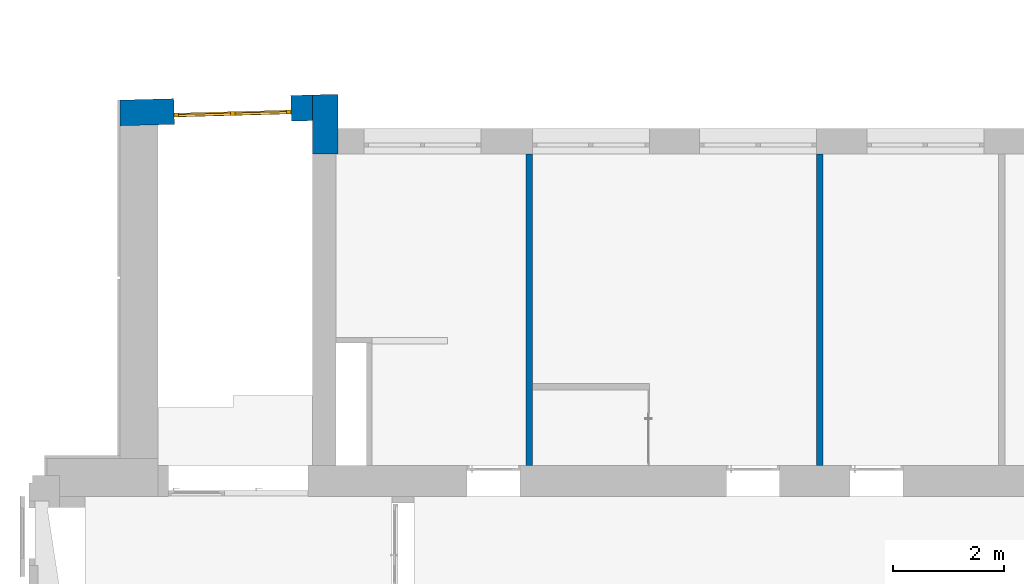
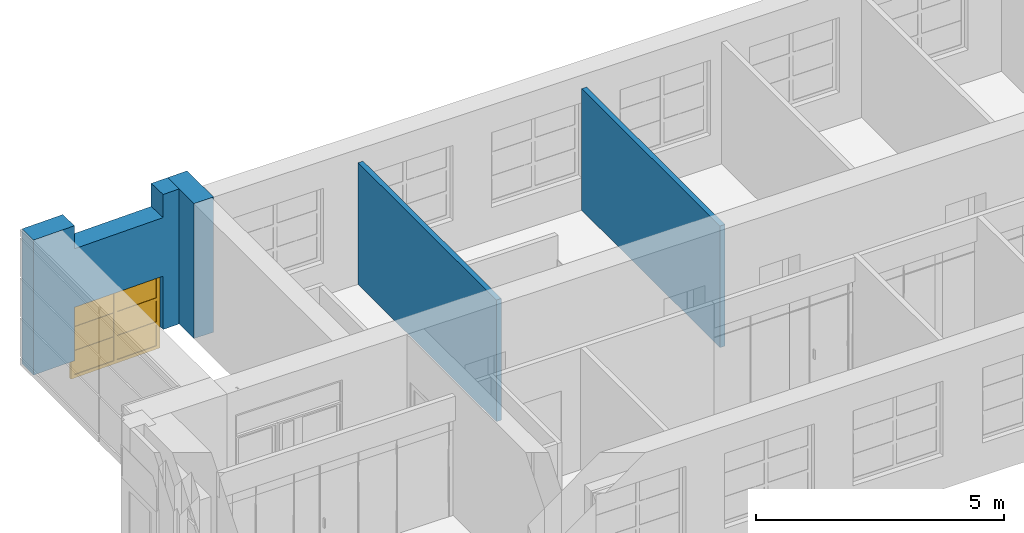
# One storey, part 52 of 73: 4 walls, 1 window, 3 openings.
"""IFC2X3 building model written with IfcOpenShell, lengths in millimetres."""

from ifc_helpers import new_model, entity, si_unit, converted_unit, derived_unit, direction, frame, frame_2d, origin, place, context, subcontext, project, spatial, polyline, rectangle, outline, extrude, face_set, surface_model, source, transform, mapped, material, material_list, layer, layer_set, layer_usage, type_object, type_shapes, element, fill, save


model = new_model("IFC2X3")

# Units and contexts
model_context = context("Model", 3, precision=0.01, world=origin(), true_north=direction((6.12303176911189e-17, 1.0)))
body_context = subcontext(model_context, "Body", "Model", "MODEL_VIEW")
ifc_project = project(units=[si_unit("LENGTHUNIT", "METRE", prefix="MILLI"), si_unit("AREAUNIT", "SQUARE_METRE"), si_unit("VOLUMEUNIT", "CUBIC_METRE"), converted_unit("PLANEANGLEUNIT", "DEGREE", entity("IfcRatioMeasure", 0.0174532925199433), si_unit("PLANEANGLEUNIT", "RADIAN"), dimensions=[0, 0, 0, 0, 0, 0, 0]), si_unit("MASSUNIT", "GRAM", prefix="KILO"), derived_unit("MASSDENSITYUNIT", [(si_unit("MASSUNIT", "GRAM", prefix="KILO"), 1), (si_unit("LENGTHUNIT", "METRE"), -3)]), si_unit("TIMEUNIT", "SECOND"), si_unit("FREQUENCYUNIT", "HERTZ"), si_unit("THERMODYNAMICTEMPERATUREUNIT", "DEGREE_CELSIUS"), derived_unit("THERMALTRANSMITTANCEUNIT", [(si_unit("MASSUNIT", "GRAM", prefix="KILO"), 1), (si_unit("THERMODYNAMICTEMPERATUREUNIT", "KELVIN"), -1), (si_unit("TIMEUNIT", "SECOND"), -3)]), derived_unit("VOLUMETRICFLOWRATEUNIT", [(si_unit("LENGTHUNIT", "METRE"), 3), (si_unit("TIMEUNIT", "SECOND"), -1)]), si_unit("ELECTRICCURRENTUNIT", "AMPERE"), si_unit("ELECTRICVOLTAGEUNIT", "VOLT"), si_unit("POWERUNIT", "WATT"), si_unit("FORCEUNIT", "NEWTON", prefix="KILO"), si_unit("ILLUMINANCEUNIT", "LUX"), si_unit("LUMINOUSFLUXUNIT", "LUMEN"), si_unit("LUMINOUSINTENSITYUNIT", "CANDELA"), derived_unit("USERDEFINED", [(si_unit("MASSUNIT", "GRAM", prefix="KILO"), -1), (si_unit("LENGTHUNIT", "METRE"), -2), (si_unit("TIMEUNIT", "SECOND"), 3), (si_unit("LUMINOUSFLUXUNIT", "LUMEN"), 1)]), derived_unit("LINEARVELOCITYUNIT", [(si_unit("LENGTHUNIT", "METRE"), 1), (si_unit("TIMEUNIT", "SECOND"), -1)]), si_unit("PRESSUREUNIT", "PASCAL"), derived_unit("USERDEFINED", [(si_unit("LENGTHUNIT", "METRE"), -2), (si_unit("MASSUNIT", "GRAM", prefix="KILO"), 1), (si_unit("TIMEUNIT", "SECOND"), -2)])], contexts=[model_context])

# Site, building, storey
site_placement = place(None, frame((-151.875543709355, 2715.0, 0.0)))
site = spatial("IfcSite", under=ifc_project, at=site_placement, Name="Surface", CompositionType="ELEMENT")
building_placement = place(site_placement, origin())
building = spatial("IfcBuilding", under=site, at=building_placement, CompositionType="ELEMENT")
storey_placement = place(building_placement, frame((0.0, 0.0, 6730.43000000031)))
storey = spatial("IfcBuildingStorey", under=building, at=storey_placement, Name="3 korrus", CompositionType="ELEMENT", Elevation=6730.43000000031)

# Wall, openings, window
ifc_material_1 = material(Name="Brick, Common")
ifc_layer_1 = layer(ifc_material_1, 440.0)
ifc_material_2 = material(Name="__Kips GN13_tava")
ifc_layer_2 = layer(ifc_material_2, 20.0)
ifc_layer_set_1 = layer_set([ifc_layer_1, ifc_layer_2], Name="Basic Wall:VS-1")
ifc_layer_usage_1 = layer_usage(ifc_layer_set_1, "AXIS2", "NEGATIVE", 230.0)
wall_type_1 = type_object("IfcWallType", Name="Basic Wall:VS-1", PredefinedType="STANDARD", material=ifc_layer_set_1)
wall_1_placement = place(storey_placement, frame((1084.82025900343, 12886.4674488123, 0.00203353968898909), z_axis=(0.0, 0.0, 1.0), x_axis=(0.999638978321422, 0.0268684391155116, 0.0)))
wall_1 = element("IfcWallStandardCase", 1, at=wall_1_placement, inside=storey, type_object=wall_type_1, material=ifc_layer_usage_1, Name="SEIN - 004", ObjectType="Basic Wall:VS-1", context=body_context, shape_type="SweptSolid", body=[
    extrude(outline(polyline([(0.0, -230.0), (3450.32003918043, -230.0), (3462.68398482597, 230.0), (12.363945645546, 230.0), (0.0, -230.0)])), origin(), (0.0, 0.0, 1.0), 3329.56796646),
])
opening_1_placement = place(wall_1_placement, origin())
element("IfcOpeningElement", 2, at=opening_1_placement, cuts=wall_1, Name="SEIN - 004", ObjectType="Opening", context=body_context, shape_type="SweptSolid", body=[
    extrude(rectangle(XDim=1768.95437241, YDim=2100.0, at=frame_2d((5.11590769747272e-13, 0.0), x_axis=(1.0, 0.0))), frame((2022.05100957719, -490.0, 3645.057630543), z_axis=(0.0, 1.0, 0.0), x_axis=(0.0, 0.0, 1.0)), (0.0, 0.0, 1.0), 1180.0),
])
opening_2_placement = place(wall_1_placement, origin())
element("IfcOpeningElement", 3, at=opening_2_placement, cuts=wall_1, Name="SEIN - 004", ObjectType="Opening", context=body_context, shape_type="SweptSolid", body=[
    extrude(rectangle(XDim=1850.0, YDim=2100.0, at=frame_2d((0.0, 1.13686837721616e-13), x_axis=(1.0, 0.0))), frame((2022.05100957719, -695.9, 3685.580444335), z_axis=(0.0, 1.0, 0.0), x_axis=(0.0, 0.0, -1.0)), (0.0, 0.0, 1.0), 1393.8),
])
opening_3_placement = place(wall_1_placement, frame((-1430.66788143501, -12852.6677276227, -0.00203353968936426), z_axis=(0.0, 0.0, 1.0), x_axis=(0.999638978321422, -0.0268684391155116, 0.0)))
opening_3 = element("IfcOpeningElement", 4, at=opening_3_placement, cuts=wall_1, Name="SEIN - 004", ObjectType="Opening", context=body_context, shape_type="SweptSolid", body=[
    extrude(rectangle(XDim=1850.0, YDim=2100.0, at=frame_2d((5.6843418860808e-13, -3.41060513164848e-13), x_axis=(1.0, 0.0))), frame((3124.83901111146, 12245.1480382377, 392.606098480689), z_axis=(-0.0268684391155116, 0.999638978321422, 0.0), x_axis=(0.0, 0.0, -1.0)), (0.0, 0.0, 1.0), 1393.8),
])
ifc_material_3 = material(Name="Paint - Titanium White")
ifc_material_4 = material(Name="Paint - Dark Gray")
ifc_material_5 = material(Name="Glass - Clear Fast")
ifc_material_list_1 = material_list([ifc_material_3, ifc_material_4, ifc_material_5])
ifc_material_list_2 = material_list([ifc_material_3, ifc_material_4, ifc_material_5])
window_style = type_object("IfcWindowStyle", Name="Aken_1850x2100", ConstructionType="NOTDEFINED", OperationType="DOUBLE_PANEL_VERTICAL", ParameterTakesPrecedence=False, Sizeable=False, material=ifc_material_list_2)
shared_shape = source(origin(), body_context, "Body", "SurfaceModel", [
    surface_model("IfcFaceBasedSurfaceModel", [(80.0, 727.9, 1770.0), (80.0, 772.9, 1770.0), (0.0, 772.9, 1770.0), (0.0, 727.9, 1770.0), (80.0, 727.9, 80.0), (80.0, 772.9, 80.0), (80.0, 772.9, 1770.0), (80.0, 727.9, 1770.0), (80.0, 772.9, 1770.0), (80.0, 772.9, 80.0), (0.0, 772.9, 80.0), (0.0, 772.9, 1770.0), (0.0, 727.9, 1770.0), (0.0, 772.9, 1770.0), (0.0, 772.9, 80.0), (0.0, 727.9, 80.0), (80.0, 727.9, 1770.0), (0.0, 727.9, 1770.0), (0.0, 727.9, 80.0), (80.0, 727.9, 80.0), (0.0, 727.9, 80.0), (0.0, 772.9, 80.0), (80.0, 772.9, 80.0), (80.0, 727.9, 80.0), (2020.0, 727.9, 80.0), (2020.0, 772.9, 80.0), (2100.0, 772.9, 80.0), (2100.0, 727.9, 80.0), (2020.0, 727.9, 1770.0), (2020.0, 772.9, 1770.0), (2020.0, 772.9, 80.0), (2020.0, 727.9, 80.0), (2020.0, 772.9, 80.0), (2020.0, 772.9, 1770.0), (2100.0, 772.9, 1770.0), (2100.0, 772.9, 80.0), (2100.0, 727.9, 80.0), (2100.0, 772.9, 80.0), (2100.0, 772.9, 1770.0), (2100.0, 727.9, 1770.0), (2020.0, 727.9, 80.0), (2100.0, 727.9, 80.0), (2100.0, 727.9, 1770.0), (2020.0, 727.9, 1770.0), (2100.0, 727.9, 1770.0), (2100.0, 772.9, 1770.0), (2020.0, 772.9, 1770.0), (2020.0, 727.9, 1770.0), (1010.0, 727.9, 80.0), (1010.0, 772.9, 80.0), (1090.0, 772.9, 80.0), (1090.0, 727.9, 80.0), (1010.0, 727.9, 1770.0), (1010.0, 772.9, 1770.0), (1010.0, 772.9, 80.0), (1010.0, 727.9, 80.0), (1010.0, 772.9, 80.0), (1010.0, 772.9, 1770.0), (1090.0, 772.9, 1770.0), (1090.0, 772.9, 80.0), (1090.0, 727.9, 80.0), (1090.0, 772.9, 80.0), (1090.0, 772.9, 1770.0), (1090.0, 727.9, 1770.0), (1010.0, 727.9, 80.0), (1090.0, 727.9, 80.0), (1090.0, 727.9, 1770.0), (1010.0, 727.9, 1770.0), (1090.0, 727.9, 1770.0), (1090.0, 772.9, 1770.0), (1010.0, 772.9, 1770.0), (1010.0, 727.9, 1770.0), (80.0, 727.9, 80.0), (80.0, 772.9, 80.0), (0.0, 772.9, 80.0), (0.0, 727.9, 80.0), (1010.0, 727.9, 80.0), (1010.0, 772.9, 80.0), (80.0, 772.9, 80.0), (80.0, 727.9, 80.0), (80.0, 772.9, 80.0), (1010.0, 772.9, 80.0), (1090.0, 772.9, 80.0), (2020.0, 772.9, 80.0), (2100.0, 772.9, 80.0), (2100.0, 772.9, 0.0), (0.0, 772.9, 0.0), (0.0, 772.9, 80.0), (0.0, 727.9, 80.0), (0.0, 772.9, 80.0), (0.0, 772.9, 0.0), (0.0, 727.9, 0.0), (80.0, 727.9, 80.0), (0.0, 727.9, 80.0), (0.0, 727.9, 0.0), (2100.0, 727.9, 0.0), (2100.0, 727.9, 80.0), (2020.0, 727.9, 80.0), (1090.0, 727.9, 80.0), (1010.0, 727.9, 80.0), (1090.0, 727.9, 80.0), (1090.0, 772.9, 80.0), (1010.0, 772.9, 80.0), (1010.0, 727.9, 80.0), (2020.0, 727.9, 80.0), (2020.0, 772.9, 80.0), (1090.0, 772.9, 80.0), (1090.0, 727.9, 80.0), (2100.0, 727.9, 80.0), (2100.0, 772.9, 80.0), (2020.0, 772.9, 80.0), (2020.0, 727.9, 80.0), (2100.0, 727.9, 0.0), (2100.0, 772.9, 0.0), (2100.0, 772.9, 80.0), (2100.0, 727.9, 80.0), (0.0, 727.9, 0.0), (0.0, 772.9, 0.0), (2100.0, 772.9, 0.0), (2100.0, 727.9, 0.0), (1010.0, 727.9, 1770.0), (1010.0, 772.9, 1770.0), (1090.0, 772.9, 1770.0), (1090.0, 727.9, 1770.0), (80.0, 727.9, 1770.0), (80.0, 772.9, 1770.0), (1010.0, 772.9, 1770.0), (1010.0, 727.9, 1770.0), (1010.0, 772.9, 1770.0), (80.0, 772.9, 1770.0), (0.0, 772.9, 1770.0), (0.0, 772.9, 1850.0), (2100.0, 772.9, 1850.0), (2100.0, 772.9, 1770.0), (2020.0, 772.9, 1770.0), (1090.0, 772.9, 1770.0), (1090.0, 727.9, 1770.0), (1090.0, 772.9, 1770.0), (2020.0, 772.9, 1770.0), (2020.0, 727.9, 1770.0), (1010.0, 727.9, 1770.0), (1090.0, 727.9, 1770.0), (2020.0, 727.9, 1770.0), (2100.0, 727.9, 1770.0), (2100.0, 727.9, 1850.0), (0.0, 727.9, 1850.0), (0.0, 727.9, 1770.0), (80.0, 727.9, 1770.0), (0.0, 727.9, 1770.0), (0.0, 772.9, 1770.0), (80.0, 772.9, 1770.0), (80.0, 727.9, 1770.0), (0.0, 727.9, 1850.0), (0.0, 772.9, 1850.0), (0.0, 772.9, 1770.0), (0.0, 727.9, 1770.0), (2100.0, 727.9, 1850.0), (2100.0, 772.9, 1850.0), (0.0, 772.9, 1850.0), (0.0, 727.9, 1850.0), (2100.0, 727.9, 1770.0), (2100.0, 772.9, 1770.0), (2100.0, 772.9, 1850.0), (2100.0, 727.9, 1850.0), (2020.0, 727.9, 1770.0), (2020.0, 772.9, 1770.0), (2100.0, 772.9, 1770.0), (2100.0, 727.9, 1770.0), (80.0, 752.9, 590.0), (80.0, 762.9, 590.0), (1010.0, 762.9, 590.0), (1010.0, 752.9, 590.0), (80.0, 752.9, 670.0), (80.0, 762.9, 670.0), (80.0, 762.9, 590.0), (80.0, 752.9, 590.0), (80.0, 762.9, 590.0), (80.0, 762.9, 670.0), (1010.0, 762.9, 670.0), (1010.0, 762.9, 590.0), (1010.0, 752.9, 590.0), (1010.0, 762.9, 590.0), (1010.0, 762.9, 670.0), (1010.0, 752.9, 670.0), (80.0, 752.9, 590.0), (1010.0, 752.9, 590.0), (1010.0, 752.9, 670.0), (80.0, 752.9, 670.0), (1010.0, 752.9, 670.0), (1010.0, 762.9, 670.0), (80.0, 762.9, 670.0), (80.0, 752.9, 670.0), (80.0, 752.9, 1180.0), (80.0, 762.9, 1180.0), (1010.0, 762.9, 1180.0), (1010.0, 752.9, 1180.0), (80.0, 752.9, 1260.0), (80.0, 762.9, 1260.0), (80.0, 762.9, 1180.0), (80.0, 752.9, 1180.0), (80.0, 762.9, 1180.0), (80.0, 762.9, 1260.0), (1010.0, 762.9, 1260.0), (1010.0, 762.9, 1180.0), (1010.0, 752.9, 1180.0), (1010.0, 762.9, 1180.0), (1010.0, 762.9, 1260.0), (1010.0, 752.9, 1260.0), (80.0, 752.9, 1180.0), (1010.0, 752.9, 1180.0), (1010.0, 752.9, 1260.0), (80.0, 752.9, 1260.0), (1010.0, 752.9, 1260.0), (1010.0, 762.9, 1260.0), (80.0, 762.9, 1260.0), (80.0, 752.9, 1260.0), (1090.0, 752.9, 590.0), (1090.0, 762.9, 590.0), (2020.0, 762.9, 590.0), (2020.0, 752.9, 590.0), (1090.0, 752.9, 670.0), (1090.0, 762.9, 670.0), (1090.0, 762.9, 590.0), (1090.0, 752.9, 590.0), (1090.0, 762.9, 590.0), (1090.0, 762.9, 670.0), (2020.0, 762.9, 670.0), (2020.0, 762.9, 590.0), (2020.0, 752.9, 590.0), (2020.0, 762.9, 590.0), (2020.0, 762.9, 670.0), (2020.0, 752.9, 670.0), (1090.0, 752.9, 590.0), (2020.0, 752.9, 590.0), (2020.0, 752.9, 670.0), (1090.0, 752.9, 670.0), (2020.0, 752.9, 670.0), (2020.0, 762.9, 670.0), (1090.0, 762.9, 670.0), (1090.0, 752.9, 670.0), (1090.0, 752.9, 1180.0), (1090.0, 762.9, 1180.0), (2020.0, 762.9, 1180.0), (2020.0, 752.9, 1180.0), (1090.0, 752.9, 1260.0), (1090.0, 762.9, 1260.0), (1090.0, 762.9, 1180.0), (1090.0, 752.9, 1180.0), (1090.0, 762.9, 1180.0), (1090.0, 762.9, 1260.0), (2020.0, 762.9, 1260.0), (2020.0, 762.9, 1180.0), (2020.0, 752.9, 1180.0), (2020.0, 762.9, 1180.0), (2020.0, 762.9, 1260.0), (2020.0, 752.9, 1260.0), (1090.0, 752.9, 1180.0), (2020.0, 752.9, 1180.0), (2020.0, 752.9, 1260.0), (1090.0, 752.9, 1260.0), (2020.0, 752.9, 1260.0), (2020.0, 762.9, 1260.0), (1090.0, 762.9, 1260.0), (1090.0, 752.9, 1260.0)], [face_set([[[0, 1, 2, 3]]]), face_set([[[4, 5, 6, 7]]]), face_set([[[8, 9, 10, 11]]]), face_set([[[12, 13, 14, 15]]]), face_set([[[16, 17, 18, 19]]]), face_set([[[20, 21, 22, 23]]]), face_set([[[24, 25, 26, 27]]]), face_set([[[28, 29, 30, 31]]]), face_set([[[32, 33, 34, 35]]]), face_set([[[36, 37, 38, 39]]]), face_set([[[40, 41, 42, 43]]]), face_set([[[44, 45, 46, 47]]]), face_set([[[48, 49, 50, 51]]]), face_set([[[52, 53, 54, 55]]]), face_set([[[56, 57, 58, 59]]]), face_set([[[60, 61, 62, 63]]]), face_set([[[64, 65, 66, 67]]]), face_set([[[68, 69, 70, 71]]]), face_set([[[72, 73, 74, 75]]]), face_set([[[76, 77, 78, 79]]]), face_set([[[80, 81, 82, 83, 84, 85, 86, 87]]]), face_set([[[88, 89, 90, 91]]]), face_set([[[92, 93, 94, 95, 96, 97, 98, 99]]]), face_set([[[100, 101, 102, 103]]]), face_set([[[104, 105, 106, 107]]]), face_set([[[108, 109, 110, 111]]]), face_set([[[112, 113, 114, 115]]]), face_set([[[116, 117, 118, 119]]]), face_set([[[120, 121, 122, 123]]]), face_set([[[124, 125, 126, 127]]]), face_set([[[128, 129, 130, 131, 132, 133, 134, 135]]]), face_set([[[136, 137, 138, 139]]]), face_set([[[140, 141, 142, 143, 144, 145, 146, 147]]]), face_set([[[148, 149, 150, 151]]]), face_set([[[152, 153, 154, 155]]]), face_set([[[156, 157, 158, 159]]]), face_set([[[160, 161, 162, 163]]]), face_set([[[164, 165, 166, 167]]]), face_set([[[168, 169, 170, 171]]]), face_set([[[172, 173, 174, 175]]]), face_set([[[176, 177, 178, 179]]]), face_set([[[180, 181, 182, 183]]]), face_set([[[184, 185, 186, 187]]]), face_set([[[188, 189, 190, 191]]]), face_set([[[192, 193, 194, 195]]]), face_set([[[196, 197, 198, 199]]]), face_set([[[200, 201, 202, 203]]]), face_set([[[204, 205, 206, 207]]]), face_set([[[208, 209, 210, 211]]]), face_set([[[212, 213, 214, 215]]]), face_set([[[216, 217, 218, 219]]]), face_set([[[220, 221, 222, 223]]]), face_set([[[224, 225, 226, 227]]]), face_set([[[228, 229, 230, 231]]]), face_set([[[232, 233, 234, 235]]]), face_set([[[236, 237, 238, 239]]]), face_set([[[240, 241, 242, 243]]]), face_set([[[244, 245, 246, 247]]]), face_set([[[248, 249, 250, 251]]]), face_set([[[252, 253, 254, 255]]]), face_set([[[256, 257, 258, 259]]]), face_set([[[260, 261, 262, 263]]])]),
    surface_model("IfcFaceBasedSurfaceModel", [(80.0, 772.9, 1770.0), (80.0, 797.9, 1770.0), (0.0, 797.9, 1770.0), (0.0, 772.9, 1770.0), (80.0, 772.9, 80.0), (80.0, 797.9, 80.0), (80.0, 797.9, 1770.0), (80.0, 772.9, 1770.0), (80.0, 797.9, 1770.0), (80.0, 797.9, 80.0), (0.0, 797.9, 80.0), (0.0, 797.9, 1770.0), (0.0, 772.9, 1770.0), (0.0, 797.9, 1770.0), (0.0, 797.9, 80.0), (0.0, 772.9, 80.0), (80.0, 772.9, 1770.0), (0.0, 772.9, 1770.0), (0.0, 772.9, 80.0), (80.0, 772.9, 80.0), (0.0, 772.9, 80.0), (0.0, 797.9, 80.0), (80.0, 797.9, 80.0), (80.0, 772.9, 80.0), (2020.0, 772.9, 80.0), (2020.0, 797.9, 80.0), (2100.0, 797.9, 80.0), (2100.0, 772.9, 80.0), (2020.0, 772.9, 1770.0), (2020.0, 797.9, 1770.0), (2020.0, 797.9, 80.0), (2020.0, 772.9, 80.0), (2020.0, 797.9, 80.0), (2020.0, 797.9, 1770.0), (2100.0, 797.9, 1770.0), (2100.0, 797.9, 80.0), (2100.0, 772.9, 80.0), (2100.0, 797.9, 80.0), (2100.0, 797.9, 1770.0), (2100.0, 772.9, 1770.0), (2020.0, 772.9, 80.0), (2100.0, 772.9, 80.0), (2100.0, 772.9, 1770.0), (2020.0, 772.9, 1770.0), (2100.0, 772.9, 1770.0), (2100.0, 797.9, 1770.0), (2020.0, 797.9, 1770.0), (2020.0, 772.9, 1770.0), (1010.0, 772.9, 80.0), (1010.0, 797.9, 80.0), (1090.0, 797.9, 80.0), (1090.0, 772.9, 80.0), (1010.0, 772.9, 1770.0), (1010.0, 797.9, 1770.0), (1010.0, 797.9, 80.0), (1010.0, 772.9, 80.0), (1010.0, 797.9, 80.0), (1010.0, 797.9, 1770.0), (1090.0, 797.9, 1770.0), (1090.0, 797.9, 80.0), (1090.0, 772.9, 80.0), (1090.0, 797.9, 80.0), (1090.0, 797.9, 1770.0), (1090.0, 772.9, 1770.0), (1010.0, 772.9, 80.0), (1090.0, 772.9, 80.0), (1090.0, 772.9, 1770.0), (1010.0, 772.9, 1770.0), (1090.0, 772.9, 1770.0), (1090.0, 797.9, 1770.0), (1010.0, 797.9, 1770.0), (1010.0, 772.9, 1770.0), (80.0, 772.9, 80.0), (80.0, 797.9, 80.0), (0.0, 797.9, 80.0), (0.0, 772.9, 80.0), (1010.0, 772.9, 80.0), (1010.0, 797.9, 80.0), (80.0, 797.9, 80.0), (80.0, 772.9, 80.0), (80.0, 797.9, 80.0), (1010.0, 797.9, 80.0), (1090.0, 797.9, 80.0), (2020.0, 797.9, 80.0), (2100.0, 797.9, 80.0), (2100.0, 797.9, 0.0), (0.0, 797.9, 0.0), (0.0, 797.9, 80.0), (0.0, 772.9, 80.0), (0.0, 797.9, 80.0), (0.0, 797.9, 0.0), (0.0, 772.9, 0.0), (80.0, 772.9, 80.0), (0.0, 772.9, 80.0), (0.0, 772.9, 0.0), (2100.0, 772.9, 0.0), (2100.0, 772.9, 80.0), (2020.0, 772.9, 80.0), (1090.0, 772.9, 80.0), (1010.0, 772.9, 80.0), (1090.0, 772.9, 80.0), (1090.0, 797.9, 80.0), (1010.0, 797.9, 80.0), (1010.0, 772.9, 80.0), (2020.0, 772.9, 80.0), (2020.0, 797.9, 80.0), (1090.0, 797.9, 80.0), (1090.0, 772.9, 80.0), (2100.0, 772.9, 80.0), (2100.0, 797.9, 80.0), (2020.0, 797.9, 80.0), (2020.0, 772.9, 80.0), (2100.0, 772.9, 0.0), (2100.0, 797.9, 0.0), (2100.0, 797.9, 80.0), (2100.0, 772.9, 80.0), (0.0, 772.9, 0.0), (0.0, 797.9, 0.0), (2100.0, 797.9, 0.0), (2100.0, 772.9, 0.0), (1010.0, 772.9, 1770.0), (1010.0, 797.9, 1770.0), (1090.0, 797.9, 1770.0), (1090.0, 772.9, 1770.0), (80.0, 772.9, 1770.0), (80.0, 797.9, 1770.0), (1010.0, 797.9, 1770.0), (1010.0, 772.9, 1770.0), (1010.0, 797.9, 1770.0), (80.0, 797.9, 1770.0), (0.0, 797.9, 1770.0), (0.0, 797.9, 1850.0), (2100.0, 797.9, 1850.0), (2100.0, 797.9, 1770.0), (2020.0, 797.9, 1770.0), (1090.0, 797.9, 1770.0), (1090.0, 772.9, 1770.0), (1090.0, 797.9, 1770.0), (2020.0, 797.9, 1770.0), (2020.0, 772.9, 1770.0), (1010.0, 772.9, 1770.0), (1090.0, 772.9, 1770.0), (2020.0, 772.9, 1770.0), (2100.0, 772.9, 1770.0), (2100.0, 772.9, 1850.0), (0.0, 772.9, 1850.0), (0.0, 772.9, 1770.0), (80.0, 772.9, 1770.0), (0.0, 772.9, 1770.0), (0.0, 797.9, 1770.0), (80.0, 797.9, 1770.0), (80.0, 772.9, 1770.0), (0.0, 772.9, 1850.0), (0.0, 797.9, 1850.0), (0.0, 797.9, 1770.0), (0.0, 772.9, 1770.0), (2100.0, 772.9, 1850.0), (2100.0, 797.9, 1850.0), (0.0, 797.9, 1850.0), (0.0, 772.9, 1850.0), (2100.0, 772.9, 1770.0), (2100.0, 797.9, 1770.0), (2100.0, 797.9, 1850.0), (2100.0, 772.9, 1850.0), (2020.0, 772.9, 1770.0), (2020.0, 797.9, 1770.0), (2100.0, 797.9, 1770.0), (2100.0, 772.9, 1770.0), (80.0, 762.9, 590.0), (80.0, 792.9, 590.0), (1010.0, 792.9, 590.0), (1010.0, 762.9, 590.0), (80.0, 762.9, 670.0), (80.0, 792.9, 670.0), (80.0, 792.9, 590.0), (80.0, 762.9, 590.0), (80.0, 792.9, 590.0), (80.0, 792.9, 670.0), (1010.0, 792.9, 670.0), (1010.0, 792.9, 590.0), (1010.0, 762.9, 590.0), (1010.0, 792.9, 590.0), (1010.0, 792.9, 670.0), (1010.0, 762.9, 670.0), (80.0, 762.9, 590.0), (1010.0, 762.9, 590.0), (1010.0, 762.9, 670.0), (80.0, 762.9, 670.0), (1010.0, 762.9, 670.0), (1010.0, 792.9, 670.0), (80.0, 792.9, 670.0), (80.0, 762.9, 670.0), (80.0, 762.9, 1180.0), (80.0, 792.9, 1180.0), (1010.0, 792.9, 1180.0), (1010.0, 762.9, 1180.0), (80.0, 762.9, 1260.0), (80.0, 792.9, 1260.0), (80.0, 792.9, 1180.0), (80.0, 762.9, 1180.0), (80.0, 792.9, 1180.0), (80.0, 792.9, 1260.0), (1010.0, 792.9, 1260.0), (1010.0, 792.9, 1180.0), (1010.0, 762.9, 1180.0), (1010.0, 792.9, 1180.0), (1010.0, 792.9, 1260.0), (1010.0, 762.9, 1260.0), (80.0, 762.9, 1180.0), (1010.0, 762.9, 1180.0), (1010.0, 762.9, 1260.0), (80.0, 762.9, 1260.0), (1010.0, 762.9, 1260.0), (1010.0, 792.9, 1260.0), (80.0, 792.9, 1260.0), (80.0, 762.9, 1260.0), (1090.0, 762.9, 590.0), (1090.0, 792.9, 590.0), (2020.0, 792.9, 590.0), (2020.0, 762.9, 590.0), (1090.0, 762.9, 670.0), (1090.0, 792.9, 670.0), (1090.0, 792.9, 590.0), (1090.0, 762.9, 590.0), (1090.0, 792.9, 590.0), (1090.0, 792.9, 670.0), (2020.0, 792.9, 670.0), (2020.0, 792.9, 590.0), (2020.0, 762.9, 590.0), (2020.0, 792.9, 590.0), (2020.0, 792.9, 670.0), (2020.0, 762.9, 670.0), (1090.0, 762.9, 590.0), (2020.0, 762.9, 590.0), (2020.0, 762.9, 670.0), (1090.0, 762.9, 670.0), (2020.0, 762.9, 670.0), (2020.0, 792.9, 670.0), (1090.0, 792.9, 670.0), (1090.0, 762.9, 670.0), (1090.0, 762.9, 1180.0), (1090.0, 792.9, 1180.0), (2020.0, 792.9, 1180.0), (2020.0, 762.9, 1180.0), (1090.0, 762.9, 1260.0), (1090.0, 792.9, 1260.0), (1090.0, 792.9, 1180.0), (1090.0, 762.9, 1180.0), (1090.0, 792.9, 1180.0), (1090.0, 792.9, 1260.0), (2020.0, 792.9, 1260.0), (2020.0, 792.9, 1180.0), (2020.0, 762.9, 1180.0), (2020.0, 792.9, 1180.0), (2020.0, 792.9, 1260.0), (2020.0, 762.9, 1260.0), (1090.0, 762.9, 1180.0), (2020.0, 762.9, 1180.0), (2020.0, 762.9, 1260.0), (1090.0, 762.9, 1260.0), (2020.0, 762.9, 1260.0), (2020.0, 792.9, 1260.0), (1090.0, 792.9, 1260.0), (1090.0, 762.9, 1260.0)], [face_set([[[0, 1, 2, 3]]]), face_set([[[4, 5, 6, 7]]]), face_set([[[8, 9, 10, 11]]]), face_set([[[12, 13, 14, 15]]]), face_set([[[16, 17, 18, 19]]]), face_set([[[20, 21, 22, 23]]]), face_set([[[24, 25, 26, 27]]]), face_set([[[28, 29, 30, 31]]]), face_set([[[32, 33, 34, 35]]]), face_set([[[36, 37, 38, 39]]]), face_set([[[40, 41, 42, 43]]]), face_set([[[44, 45, 46, 47]]]), face_set([[[48, 49, 50, 51]]]), face_set([[[52, 53, 54, 55]]]), face_set([[[56, 57, 58, 59]]]), face_set([[[60, 61, 62, 63]]]), face_set([[[64, 65, 66, 67]]]), face_set([[[68, 69, 70, 71]]]), face_set([[[72, 73, 74, 75]]]), face_set([[[76, 77, 78, 79]]]), face_set([[[80, 81, 82, 83, 84, 85, 86, 87]]]), face_set([[[88, 89, 90, 91]]]), face_set([[[92, 93, 94, 95, 96, 97, 98, 99]]]), face_set([[[100, 101, 102, 103]]]), face_set([[[104, 105, 106, 107]]]), face_set([[[108, 109, 110, 111]]]), face_set([[[112, 113, 114, 115]]]), face_set([[[116, 117, 118, 119]]]), face_set([[[120, 121, 122, 123]]]), face_set([[[124, 125, 126, 127]]]), face_set([[[128, 129, 130, 131, 132, 133, 134, 135]]]), face_set([[[136, 137, 138, 139]]]), face_set([[[140, 141, 142, 143, 144, 145, 146, 147]]]), face_set([[[148, 149, 150, 151]]]), face_set([[[152, 153, 154, 155]]]), face_set([[[156, 157, 158, 159]]]), face_set([[[160, 161, 162, 163]]]), face_set([[[164, 165, 166, 167]]]), face_set([[[168, 169, 170, 171]]]), face_set([[[172, 173, 174, 175]]]), face_set([[[176, 177, 178, 179]]]), face_set([[[180, 181, 182, 183]]]), face_set([[[184, 185, 186, 187]]]), face_set([[[188, 189, 190, 191]]]), face_set([[[192, 193, 194, 195]]]), face_set([[[196, 197, 198, 199]]]), face_set([[[200, 201, 202, 203]]]), face_set([[[204, 205, 206, 207]]]), face_set([[[208, 209, 210, 211]]]), face_set([[[212, 213, 214, 215]]]), face_set([[[216, 217, 218, 219]]]), face_set([[[220, 221, 222, 223]]]), face_set([[[224, 225, 226, 227]]]), face_set([[[228, 229, 230, 231]]]), face_set([[[232, 233, 234, 235]]]), face_set([[[236, 237, 238, 239]]]), face_set([[[240, 241, 242, 243]]]), face_set([[[244, 245, 246, 247]]]), face_set([[[248, 249, 250, 251]]]), face_set([[[252, 253, 254, 255]]]), face_set([[[256, 257, 258, 259]]]), face_set([[[260, 261, 262, 263]]])]),
    surface_model("IfcFaceBasedSurfaceModel", [(1010.0, 762.9, 80.0), (1010.0, 762.9, 590.0), (80.0, 762.9, 590.0), (80.0, 762.9, 80.0), (1010.0, 782.9, 80.0), (80.0, 782.9, 80.0), (80.0, 782.9, 590.0), (1010.0, 782.9, 590.0), (1010.0, 762.9, 670.0), (1010.0, 762.9, 1180.0), (80.0, 762.9, 1180.0), (80.0, 762.9, 670.0), (1010.0, 782.9, 670.0), (80.0, 782.9, 670.0), (80.0, 782.9, 1180.0), (1010.0, 782.9, 1180.0), (1010.0, 762.9, 1260.0), (1010.0, 762.9, 1770.0), (80.0, 762.9, 1770.0), (80.0, 762.9, 1260.0), (1010.0, 782.9, 1260.0), (80.0, 782.9, 1260.0), (80.0, 782.9, 1770.0), (1010.0, 782.9, 1770.0), (2020.0, 762.9, 80.0), (2020.0, 762.9, 590.0), (1090.0, 762.9, 590.0), (1090.0, 762.9, 80.0), (2020.0, 782.9, 80.0), (1090.0, 782.9, 80.0), (1090.0, 782.9, 590.0), (2020.0, 782.9, 590.0), (2020.0, 762.9, 670.0), (2020.0, 762.9, 1180.0), (1090.0, 762.9, 1180.0), (1090.0, 762.9, 670.0), (2020.0, 782.9, 670.0), (1090.0, 782.9, 670.0), (1090.0, 782.9, 1180.0), (2020.0, 782.9, 1180.0), (2020.0, 762.9, 1260.0), (2020.0, 762.9, 1770.0), (1090.0, 762.9, 1770.0), (1090.0, 762.9, 1260.0), (2020.0, 782.9, 1260.0), (1090.0, 782.9, 1260.0), (1090.0, 782.9, 1770.0), (2020.0, 782.9, 1770.0)], [face_set([[[0, 1, 2, 3]]]), face_set([[[4, 5, 6, 7]]]), face_set([[[8, 9, 10, 11]]]), face_set([[[12, 13, 14, 15]]]), face_set([[[16, 17, 18, 19]]]), face_set([[[20, 21, 22, 23]]]), face_set([[[24, 25, 26, 27]]]), face_set([[[28, 29, 30, 31]]]), face_set([[[32, 33, 34, 35]]]), face_set([[[36, 37, 38, 39]]]), face_set([[[40, 41, 42, 43]]]), face_set([[[44, 45, 46, 47]]])]),
])
type_shapes(window_style, [shared_shape])
window_placement = place(opening_3_placement, frame((4137.01070790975, 13666.6567072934, -532.393901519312), z_axis=(0.0, 0.0, 1.0), x_axis=(-0.999638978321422, -0.0268684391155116, 0.0)))
window = element("IfcWindow", 5, at=window_placement, inside=storey, type_object=window_style, material=ifc_material_list_1, Name="Aken_1850x2100:Aken_1850x2100", ObjectType="Aken_1850x2100", OverallHeight=2100.0, OverallWidth=1850.0, context=body_context, shape_type="MappedRepresentation", body=[
    mapped(shared_shape, transform((0.0, 0.0, 0.0), scale=1.0)),
])
fill(opening_3, window)

# Walls
ifc_layer_usage_2 = layer_usage(ifc_layer_set_1, "AXIS2", "NEGATIVE", 230.0)
wall_2_placement = place(storey_placement, frame((4770.07439884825, 13221.7852732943, 0.0), z_axis=(0.0, 0.0, 1.0), x_axis=(0.0, -1.0, 0.0)))
element("IfcWallStandardCase", 6, at=wall_2_placement, inside=storey, type_object=wall_type_1, material=ifc_layer_usage_2, Name="SEIN - 003", ObjectType="Basic Wall:VS-1", context=body_context, shape_type="SweptSolid", body=[
    extrude(outline(polyline([(1071.7852732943, -230.0), (1071.7852732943, 230.0), (611.785273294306, 230.0), (0.0, 230.0), (12.3639456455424, -230.0), (472.530075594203, -230.0), (1071.7852732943, -230.0)])), origin(), (0.0, 0.0, 1.0), 3329.57),
])
ifc_layer_3 = layer(ifc_material_2, 12.5)
ifc_layer_4 = layer(ifc_material_2, 12.5)
ifc_material_6 = material(Name="__Soojustus EPS")
ifc_layer_5 = layer(ifc_material_6, 66.0)
ifc_layer_6 = layer(ifc_material_2, 12.5)
ifc_layer_7 = layer(ifc_material_2, 12.5)
ifc_layer_set_2 = layer_set([ifc_layer_3, ifc_layer_4, ifc_layer_5, ifc_layer_6, ifc_layer_7], Name="Basic Wall:SS-3_Kipssein tava ruumide vahel")
ifc_layer_usage_3 = layer_usage(ifc_layer_set_2, "AXIS2", "NEGATIVE", 58.0)
wall_type_2 = type_object("IfcWallType", Name="Basic Wall:SS-3_Kipssein tava ruumide vahel", PredefinedType="STANDARD", material=ifc_layer_set_2)
wall_3_placement = place(storey_placement, frame((13640.8493480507, 12150.0, 0.0), z_axis=(0.0, 0.0, 1.0), x_axis=(0.0, -1.0, 0.0)))
element("IfcWallStandardCase", 7, at=wall_3_placement, inside=storey, type_object=wall_type_2, material=ifc_layer_usage_3, Name="Basic Wall:SS-3_Kipssein tava ruumide vahel", ObjectType="Basic Wall:SS-3_Kipssein tava ruumide vahel", context=body_context, shape_type="SweptSolid", body=[
    extrude(rectangle(XDim=5590.0, YDim=116.0, at=frame_2d((2795.0, 0.0), x_axis=(-1.0, 0.0))), origin(), (0.0, 0.0, 1.0), 3000.0),
])
ifc_layer_usage_4 = layer_usage(ifc_layer_set_2, "AXIS2", "NEGATIVE", 58.0)
wall_4_placement = place(storey_placement, frame((8424.84934805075, 12150.0, 0.0), z_axis=(0.0, 0.0, 1.0), x_axis=(0.0, -1.0, 0.0)))
element("IfcWallStandardCase", 8, at=wall_4_placement, inside=storey, type_object=wall_type_2, material=ifc_layer_usage_4, Name="Basic Wall:SS-3_Kipssein tava ruumide vahel", ObjectType="Basic Wall:SS-3_Kipssein tava ruumide vahel", context=body_context, shape_type="SweptSolid", body=[
    extrude(rectangle(XDim=5590.0, YDim=116.0, at=frame_2d((2795.0, 0.0), x_axis=(-1.0, 0.0))), origin(), (0.0, 0.0, 1.0), 3000.0),
])

save(model, "model.ifc")
